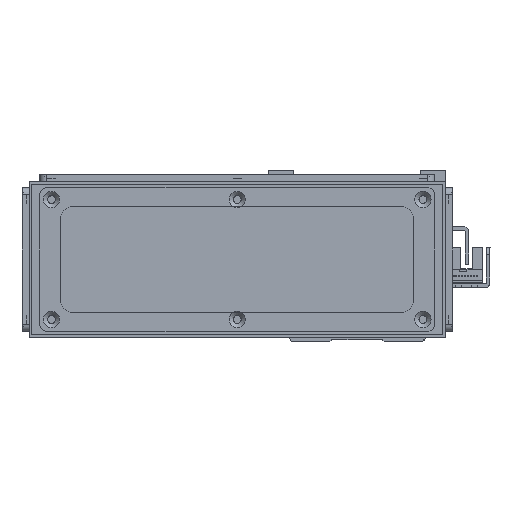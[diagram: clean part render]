
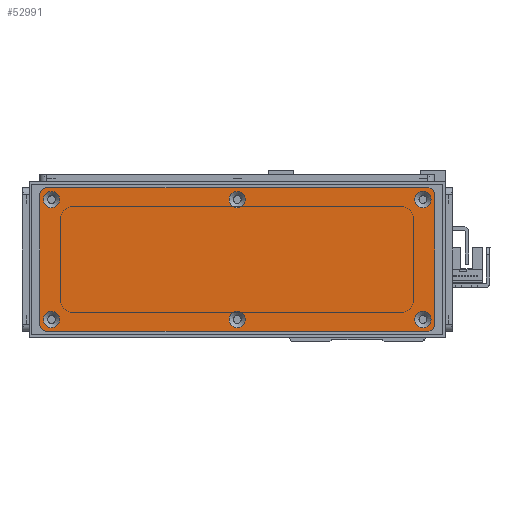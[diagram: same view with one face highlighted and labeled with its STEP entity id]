
A CAD part, left-side view. The second image highlights one B-rep face of the part: STEP entity #52991.
In plain terms, the highlighted planar face has unit normal (-1, 0, 0) as drawn and (0, 0, 1) by its records, which use the part's own axes.
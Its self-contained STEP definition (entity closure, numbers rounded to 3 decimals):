
#937=FACE_BOUND('',#8494,.T.);
#938=FACE_BOUND('',#8495,.T.);
#939=FACE_BOUND('',#8496,.T.);
#940=FACE_BOUND('',#8497,.T.);
#941=FACE_BOUND('',#8498,.T.);
#942=FACE_BOUND('',#8499,.T.);
#2893=PLANE('',#56981);
#5396=FACE_OUTER_BOUND('',#8493,.T.);
#8493=EDGE_LOOP('',(#47904,#47905,#47906,#47907,#47908,#47909,#47910,#47911));
#8494=EDGE_LOOP('',(#47912));
#8495=EDGE_LOOP('',(#47913));
#8496=EDGE_LOOP('',(#47914));
#8497=EDGE_LOOP('',(#47915));
#8498=EDGE_LOOP('',(#47916));
#8499=EDGE_LOOP('',(#47917));
#14574=LINE('',#85502,#20748);
#14577=LINE('',#85510,#20751);
#14580=LINE('',#85518,#20754);
#14583=LINE('',#85525,#20757);
#20748=VECTOR('',#69609,10.);
#20751=VECTOR('',#69618,10.);
#20754=VECTOR('',#69627,10.);
#20757=VECTOR('',#69636,10.);
#22240=CIRCLE('',#56935,3.45);
#22243=CIRCLE('',#56940,3.45);
#22246=CIRCLE('',#56945,3.45);
#22249=CIRCLE('',#56950,3.45);
#22252=CIRCLE('',#56955,3.45);
#22255=CIRCLE('',#56960,3.45);
#22262=CIRCLE('',#56970,3.);
#22263=CIRCLE('',#56973,3.);
#22264=CIRCLE('',#56976,3.);
#22265=CIRCLE('',#56979,3.);
#26901=VERTEX_POINT('',#85418);
#26904=VERTEX_POINT('',#85428);
#26907=VERTEX_POINT('',#85438);
#26910=VERTEX_POINT('',#85448);
#26913=VERTEX_POINT('',#85458);
#26916=VERTEX_POINT('',#85468);
#26927=VERTEX_POINT('',#85495);
#26928=VERTEX_POINT('',#85497);
#26929=VERTEX_POINT('',#85501);
#26930=VERTEX_POINT('',#85505);
#26931=VERTEX_POINT('',#85509);
#26932=VERTEX_POINT('',#85513);
#26933=VERTEX_POINT('',#85517);
#26934=VERTEX_POINT('',#85521);
#33993=EDGE_CURVE('',#26901,#26901,#22240,.T.);
#33998=EDGE_CURVE('',#26904,#26904,#22243,.T.);
#34003=EDGE_CURVE('',#26907,#26907,#22246,.T.);
#34008=EDGE_CURVE('',#26910,#26910,#22249,.T.);
#34013=EDGE_CURVE('',#26913,#26913,#22252,.T.);
#34018=EDGE_CURVE('',#26916,#26916,#22255,.T.);
#34032=EDGE_CURVE('',#26928,#26927,#22262,.T.);
#34034=EDGE_CURVE('',#26929,#26928,#14574,.T.);
#34036=EDGE_CURVE('',#26930,#26929,#22263,.T.);
#34038=EDGE_CURVE('',#26931,#26930,#14577,.T.);
#34040=EDGE_CURVE('',#26932,#26931,#22264,.T.);
#34042=EDGE_CURVE('',#26933,#26932,#14580,.T.);
#34044=EDGE_CURVE('',#26934,#26933,#22265,.T.);
#34046=EDGE_CURVE('',#26927,#26934,#14583,.T.);
#47904=ORIENTED_EDGE('',*,*,#34046,.T.);
#47905=ORIENTED_EDGE('',*,*,#34044,.T.);
#47906=ORIENTED_EDGE('',*,*,#34042,.T.);
#47907=ORIENTED_EDGE('',*,*,#34040,.T.);
#47908=ORIENTED_EDGE('',*,*,#34038,.T.);
#47909=ORIENTED_EDGE('',*,*,#34036,.T.);
#47910=ORIENTED_EDGE('',*,*,#34034,.T.);
#47911=ORIENTED_EDGE('',*,*,#34032,.T.);
#47912=ORIENTED_EDGE('',*,*,#33993,.T.);
#47913=ORIENTED_EDGE('',*,*,#33998,.T.);
#47914=ORIENTED_EDGE('',*,*,#34003,.T.);
#47915=ORIENTED_EDGE('',*,*,#34008,.T.);
#47916=ORIENTED_EDGE('',*,*,#34013,.T.);
#47917=ORIENTED_EDGE('',*,*,#34018,.T.);
#52991=ADVANCED_FACE('',(#5396,#937,#938,#939,#940,#941,#942),#2893,.T.);
#56935=AXIS2_PLACEMENT_3D('',#85419,#69517,#69518);
#56940=AXIS2_PLACEMENT_3D('',#85429,#69529,#69530);
#56945=AXIS2_PLACEMENT_3D('',#85439,#69541,#69542);
#56950=AXIS2_PLACEMENT_3D('',#85449,#69553,#69554);
#56955=AXIS2_PLACEMENT_3D('',#85459,#69565,#69566);
#56960=AXIS2_PLACEMENT_3D('',#85469,#69577,#69578);
#56970=AXIS2_PLACEMENT_3D('',#85498,#69604,#69605);
#56973=AXIS2_PLACEMENT_3D('',#85506,#69613,#69614);
#56976=AXIS2_PLACEMENT_3D('',#85514,#69622,#69623);
#56979=AXIS2_PLACEMENT_3D('',#85522,#69631,#69632);
#56981=AXIS2_PLACEMENT_3D('',#85526,#69637,#69638);
#69517=DIRECTION('center_axis',(0.,0.,-1.));
#69518=DIRECTION('ref_axis',(1.,0.,0.));
#69529=DIRECTION('center_axis',(0.,0.,-1.));
#69530=DIRECTION('ref_axis',(1.,0.,0.));
#69541=DIRECTION('center_axis',(0.,0.,-1.));
#69542=DIRECTION('ref_axis',(1.,0.,0.));
#69553=DIRECTION('center_axis',(0.,0.,-1.));
#69554=DIRECTION('ref_axis',(1.,0.,0.));
#69565=DIRECTION('center_axis',(0.,0.,-1.));
#69566=DIRECTION('ref_axis',(1.,0.,0.));
#69577=DIRECTION('center_axis',(0.,0.,-1.));
#69578=DIRECTION('ref_axis',(1.,0.,0.));
#69604=DIRECTION('center_axis',(0.,0.,1.));
#69605=DIRECTION('ref_axis',(-1.,0.,0.));
#69609=DIRECTION('',(0.,1.,0.));
#69613=DIRECTION('center_axis',(0.,0.,1.));
#69614=DIRECTION('ref_axis',(0.,1.,0.));
#69618=DIRECTION('',(1.,0.,0.));
#69622=DIRECTION('center_axis',(0.,0.,1.));
#69623=DIRECTION('ref_axis',(1.,0.,0.));
#69627=DIRECTION('',(0.,-1.,0.));
#69631=DIRECTION('center_axis',(0.,0.,1.));
#69632=DIRECTION('ref_axis',(0.,-1.,0.));
#69636=DIRECTION('',(-1.,0.,0.));
#69637=DIRECTION('center_axis',(0.,0.,1.));
#69638=DIRECTION('ref_axis',(1.,0.,0.));
#85418=CARTESIAN_POINT('',(-3.45,25.5,1.5));
#85419=CARTESIAN_POINT('Origin',(0.,25.5,1.5));
#85428=CARTESIAN_POINT('',(75.55,-25.5,1.5));
#85429=CARTESIAN_POINT('Origin',(79.,-25.5,1.5));
#85438=CARTESIAN_POINT('',(-82.45,25.5,1.5));
#85439=CARTESIAN_POINT('Origin',(-79.,25.5,1.5));
#85448=CARTESIAN_POINT('',(75.55,25.5,1.5));
#85449=CARTESIAN_POINT('Origin',(79.,25.5,1.5));
#85458=CARTESIAN_POINT('',(-82.45,-25.5,1.5));
#85459=CARTESIAN_POINT('Origin',(-79.,-25.5,1.5));
#85468=CARTESIAN_POINT('',(-3.45,-25.5,1.5));
#85469=CARTESIAN_POINT('Origin',(0.,-25.5,1.5));
#85495=CARTESIAN_POINT('',(81.,30.5,1.5));
#85497=CARTESIAN_POINT('',(84.,27.5,1.5));
#85498=CARTESIAN_POINT('Origin',(81.,27.5,1.5));
#85501=CARTESIAN_POINT('',(84.,-27.5,1.5));
#85502=CARTESIAN_POINT('',(84.,27.5,1.5));
#85505=CARTESIAN_POINT('',(81.,-30.5,1.5));
#85506=CARTESIAN_POINT('Origin',(81.,-27.5,1.5));
#85509=CARTESIAN_POINT('',(-81.,-30.5,1.5));
#85510=CARTESIAN_POINT('',(81.,-30.5,1.5));
#85513=CARTESIAN_POINT('',(-84.,-27.5,1.5));
#85514=CARTESIAN_POINT('Origin',(-81.,-27.5,1.5));
#85517=CARTESIAN_POINT('',(-84.,27.5,1.5));
#85518=CARTESIAN_POINT('',(-84.,-27.5,1.5));
#85521=CARTESIAN_POINT('',(-81.,30.5,1.5));
#85522=CARTESIAN_POINT('Origin',(-81.,27.5,1.5));
#85525=CARTESIAN_POINT('',(-81.,30.5,1.5));
#85526=CARTESIAN_POINT('Origin',(0.,0.,
1.5));
